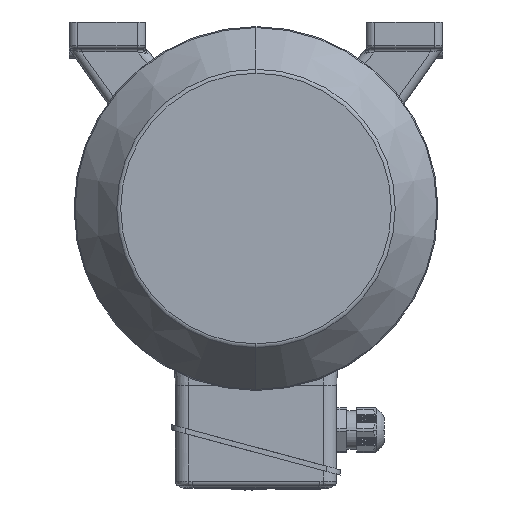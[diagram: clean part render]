
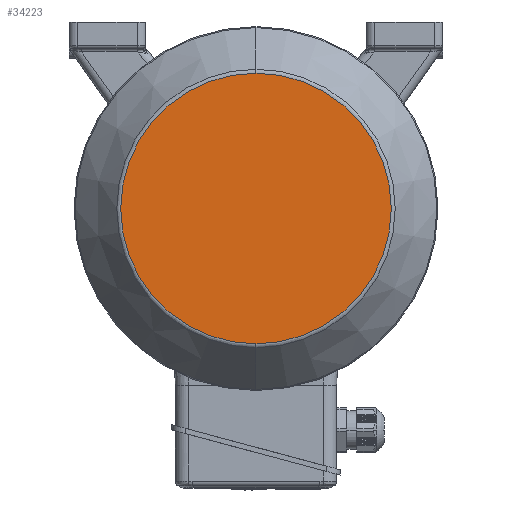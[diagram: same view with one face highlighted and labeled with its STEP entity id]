
A CAD part, left-side view. The second image highlights one B-rep face of the part: STEP entity #34223.
In plain terms, the highlighted planar face has unit normal (-1, 0, 0).
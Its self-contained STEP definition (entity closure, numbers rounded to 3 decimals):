
#1103 = FACE_OUTER_BOUND ( 'NONE', #12818, .T. ) ;
#2741 = CIRCLE ( 'NONE', #19201, 81.227 ) ;
#7352 = CARTESIAN_POINT ( 'NONE',  ( -198.75, 0., 0. ) ) ;
#7923 = PLANE ( 'NONE',  #34136 ) ;
#8403 = CARTESIAN_POINT ( 'NONE',  ( -198.75, 0., -81.227 ) ) ;
#8465 = ORIENTED_EDGE ( 'NONE', *, *, #12062, .F. ) ;
#9051 = VERTEX_POINT ( 'NONE', #41958 ) ;
#12062 = EDGE_CURVE ( 'NONE', #9051, #44117, #37071, .T. ) ;
#12818 = EDGE_LOOP ( 'NONE', ( #8465, #18556 ) ) ;
#15818 = DIRECTION ( 'NONE',  ( 0., 1., 0. ) ) ;
#18085 = DIRECTION ( 'NONE',  ( 1., 0., 0. ) ) ;
#18441 = CARTESIAN_POINT ( 'NONE',  ( -198.75, 0., 0. ) ) ;
#18556 = ORIENTED_EDGE ( 'NONE', *, *, #34900, .F. ) ;
#19201 = AXIS2_PLACEMENT_3D ( 'NONE', #7352, #18085, #47038 ) ;
#21669 = CARTESIAN_POINT ( 'NONE',  ( -198.75, 0., 81.227 ) ) ;
#22107 = DIRECTION ( 'NONE',  ( 0., 0., -1. ) ) ;
#23104 = DIRECTION ( 'NONE',  ( -1., 0., 0. ) ) ;
#23505 = AXIS2_PLACEMENT_3D ( 'NONE', #18441, #43916, #22107 ) ;
#34136 = AXIS2_PLACEMENT_3D ( 'NONE', #8403, #23104, #15818 ) ;
#34223 = ADVANCED_FACE ( 'NONE', ( #1103 ), #7923, .T. ) ;
#34900 = EDGE_CURVE ( 'NONE', #44117, #9051, #2741, .T. ) ;
#37071 = CIRCLE ( 'NONE', #23505, 81.227 ) ;
#41958 = CARTESIAN_POINT ( 'NONE',  ( -198.75, 0., -81.227 ) ) ;
#43916 = DIRECTION ( 'NONE',  ( 1., 0., 0. ) ) ;
#44117 = VERTEX_POINT ( 'NONE', #21669 ) ;
#47038 = DIRECTION ( 'NONE',  ( 0., 0., -1. ) ) ;
